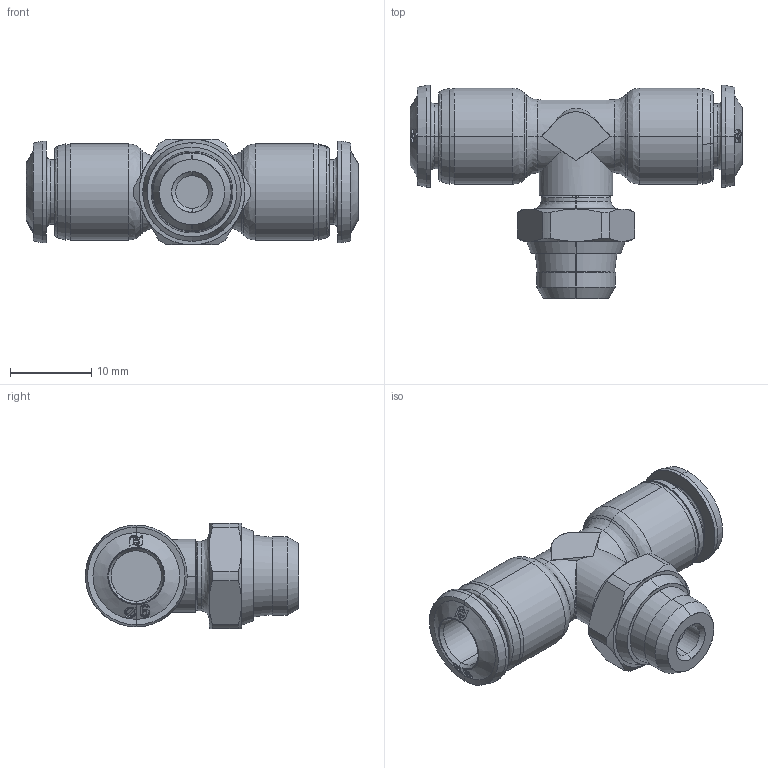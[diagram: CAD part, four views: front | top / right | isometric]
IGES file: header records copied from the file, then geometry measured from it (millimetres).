
Start section: SolidWorks IGES file using analytic representation for surfaces
Global section: file name: K:\Disegni Esecutivi\Serie 55000\ASSIEMI_55000\55211\ASSIEMI_PIENI_55211\5521100004.IGS; native system: SolidWorks 2007; preprocessor: SolidWorks 2007; author: cad02; date: 071127.150126; units: millimetre
Bounding box: 40.8 x 26.2 x 13 mm (x, y, z)
Surface area: 2898.5 mm2 (no closed solid volume)
Topology: 0 solids, 0 shells, 275 faces, 3230 edges, 3230 vertices
Faces by surface type: bspline 156, revolution 119
